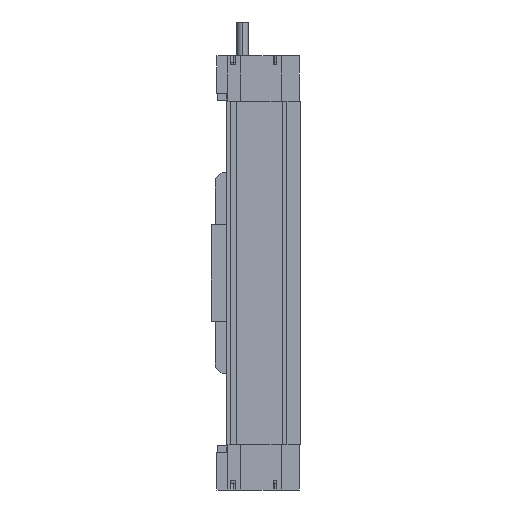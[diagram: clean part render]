
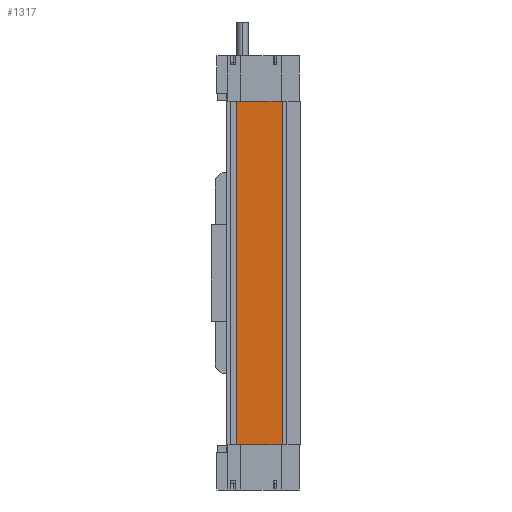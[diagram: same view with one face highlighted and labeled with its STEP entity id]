
A CAD part, left-side view. The second image highlights one B-rep face of the part: STEP entity #1317.
In plain terms, the highlighted planar face has unit normal (-1, 0, 0).
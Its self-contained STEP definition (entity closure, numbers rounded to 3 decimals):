
#1282 = ORIENTED_EDGE ( 'NONE', *, *, #1288, .F. ) ;
#1288 = EDGE_CURVE ( 'NONE', #1342, #3905, #6697, .T. ) ;
#1304 = EDGE_LOOP ( 'NONE', ( #1314, #1282, #1318, #1410 ) ) ;
#1314 = ORIENTED_EDGE ( 'NONE', *, *, #3963, .T. ) ;
#1317 = ADVANCED_FACE ( 'NONE', ( #6758 ), #6754, .F. ) ;
#1318 = ORIENTED_EDGE ( 'NONE', *, *, #4119, .F. ) ;
#1342 = VERTEX_POINT ( 'NONE', #6771 ) ;
#1356 = EDGE_CURVE ( 'NONE', #4130, #3955, #6766, .T. ) ;
#1410 = ORIENTED_EDGE ( 'NONE', *, *, #1356, .T. ) ;
#3905 = VERTEX_POINT ( 'NONE', #10873 ) ;
#3955 = VERTEX_POINT ( 'NONE', #10956 ) ;
#3963 = EDGE_CURVE ( 'NONE', #3955, #3905, #11004, .T. ) ;
#4119 = EDGE_CURVE ( 'NONE', #4130, #1342, #11246, .T. ) ;
#4130 = VERTEX_POINT ( 'NONE', #11288 ) ;
#6691 = DIRECTION ( 'NONE',  ( 0., 0., -1. ) ) ;
#6695 = VECTOR ( 'NONE', #6691, 1000. ) ;
#6696 = CARTESIAN_POINT ( 'NONE',  ( -32.5, -16.45, 304. ) ) ;
#6697 = LINE ( 'NONE', #6696, #6695 ) ;
#6705 = AXIS2_PLACEMENT_3D ( 'NONE', #6710, #6751, #6750 ) ;
#6710 = CARTESIAN_POINT ( 'NONE',  ( -32.5, -16.45, 304. ) ) ;
#6750 = DIRECTION ( 'NONE',  ( 0., 0., -1. ) ) ;
#6751 = DIRECTION ( 'NONE',  ( 1., 0., 0. ) ) ;
#6754 = PLANE ( 'NONE',  #6705 ) ;
#6758 = FACE_OUTER_BOUND ( 'NONE', #1304, .T. ) ;
#6765 = CARTESIAN_POINT ( 'NONE',  ( -32.5, 24.15, 304. ) ) ;
#6766 = LINE ( 'NONE', #6765, #6810 ) ;
#6771 = CARTESIAN_POINT ( 'NONE',  ( -32.5, -16.45, 304. ) ) ;
#6809 = DIRECTION ( 'NONE',  ( 0., 0., -1. ) ) ;
#6810 = VECTOR ( 'NONE', #6809, 1000. ) ;
#10873 = CARTESIAN_POINT ( 'NONE',  ( -32.5, -16.45, 0. ) ) ;
#10956 = CARTESIAN_POINT ( 'NONE',  ( -32.5, 24.15, 0. ) ) ;
#11001 = DIRECTION ( 'NONE',  ( 0., -1., 0. ) ) ;
#11002 = VECTOR ( 'NONE', #11001, 1000. ) ;
#11003 = CARTESIAN_POINT ( 'NONE',  ( -32.5, -16.45, 0. ) ) ;
#11004 = LINE ( 'NONE', #11003, #11002 ) ;
#11243 = DIRECTION ( 'NONE',  ( 0., -1., 0. ) ) ;
#11244 = VECTOR ( 'NONE', #11243, 1000. ) ;
#11245 = CARTESIAN_POINT ( 'NONE',  ( -32.5, -16.45, 304. ) ) ;
#11246 = LINE ( 'NONE', #11245, #11244 ) ;
#11288 = CARTESIAN_POINT ( 'NONE',  ( -32.5, 24.15, 304. ) ) ;
